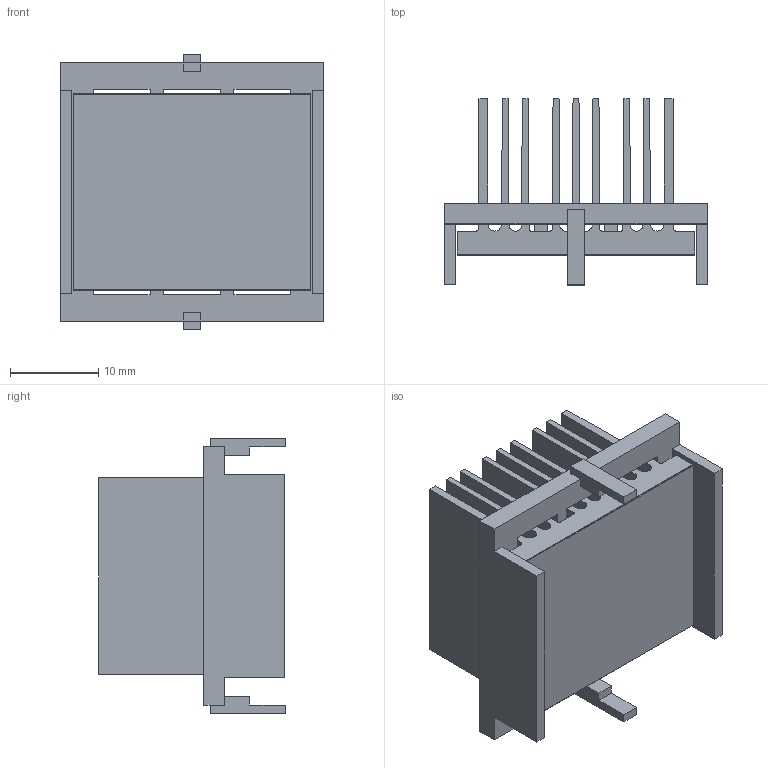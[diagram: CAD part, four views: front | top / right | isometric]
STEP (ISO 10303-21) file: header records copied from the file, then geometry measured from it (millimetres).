
FILE_DESCRIPTION (( 'STEP AP214' ), '1' );
FILE_NAME ('INH27001-18-2.6Y.STEP', '2023-02-16T16:11:09', ( '' ), ( '' ), 'SwSTEP 2.0', 'SolidWorks 2020', '' );
FILE_SCHEMA (( 'AUTOMOTIVE_DESIGN' ));
Length unit declared in the file: millimetre
Products named in the file (1): INH27001-18-2.6Y
Bounding box: 29.7 x 21.1 x 31.2 mm (x, y, z)
Volume: 5456.2 mm3; surface area: 10879.6 mm2
Topology: 3 solids, 3 shells, 122 faces, 348 edges, 232 vertices
Faces by surface type: plane 104, cylinder 18
Entity records: 5326 total; most frequent: CARTESIAN_POINT 703, ORIENTED_EDGE 696, DIRECTION 630, EDGE_CURVE 348, VECTOR 312, LINE 312, VERTEX_POINT 232, AXIS2_PLACEMENT_3D 159
